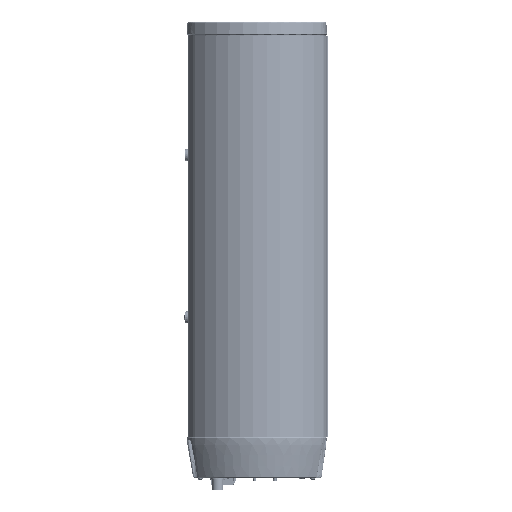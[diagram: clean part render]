
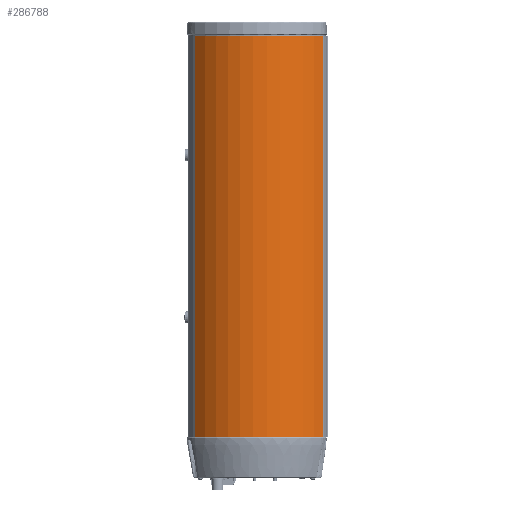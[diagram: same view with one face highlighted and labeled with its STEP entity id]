
A CAD part, left-side view. The second image highlights one B-rep face of the part: STEP entity #286788.
In plain terms, the highlighted cylindrical face has radius 81.17 mm (diameter 162.34 mm), a partial arc.
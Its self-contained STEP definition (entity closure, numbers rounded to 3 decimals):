
#10201 = LINE ( 'NONE', #115670, #306040 ) ;
#15075 = EDGE_CURVE ( 'NONE', #41800, #265298, #184176, .T. ) ;
#17237 = DIRECTION ( 'NONE',  ( 1., 0., 0. ) ) ;
#29823 = EDGE_CURVE ( 'NONE', #31084, #329132, #94656, .T. ) ;
#31084 = VERTEX_POINT ( 'NONE', #183118 ) ;
#41800 = VERTEX_POINT ( 'NONE', #201636 ) ;
#46017 = AXIS2_PLACEMENT_3D ( 'NONE', #252101, #69172, #17237 ) ;
#49468 = EDGE_LOOP ( 'NONE', ( #106498, #269559, #341250, #106280 ) ) ;
#67296 = DIRECTION ( 'NONE',  ( 0., 0., 1. ) ) ;
#69172 = DIRECTION ( 'NONE',  ( 0., 0., 1. ) ) ;
#75353 = LINE ( 'NONE', #317060, #325754 ) ;
#94656 = CIRCLE ( 'NONE', #260007, 81.17 ) ;
#106280 = ORIENTED_EDGE ( 'NONE', *, *, #15075, .T. ) ;
#106498 = ORIENTED_EDGE ( 'NONE', *, *, #127528, .T. ) ;
#112095 = CARTESIAN_POINT ( 'NONE',  ( 4.17, 2., -40. ) ) ;
#113781 = DIRECTION ( 'NONE',  ( 1., 0., 0. ) ) ;
#114180 = CARTESIAN_POINT ( 'NONE',  ( 4.17, 2., 356.6 ) ) ;
#115670 = CARTESIAN_POINT ( 'NONE',  ( -49.298, 63.072, 904.476 ) ) ;
#115880 = DIRECTION ( 'NONE',  ( 0., 0., -1. ) ) ;
#127528 = EDGE_CURVE ( 'NONE', #265298, #31084, #75353, .T. ) ;
#166600 = CARTESIAN_POINT ( 'NONE',  ( -45.294, -62.357, -38.4 ) ) ;
#179001 = DIRECTION ( 'NONE',  ( 0., 0., 1. ) ) ;
#183118 = CARTESIAN_POINT ( 'NONE',  ( -45.294, -62.357, 356.6 ) ) ;
#184176 = CIRCLE ( 'NONE', #46017, 81.17 ) ;
#201636 = CARTESIAN_POINT ( 'NONE',  ( -49.298, 63.072, -38.4 ) ) ;
#232853 = EDGE_CURVE ( 'NONE', #41800, #329132, #10201, .T. ) ;
#252101 = CARTESIAN_POINT ( 'NONE',  ( 4.17, 2., -38.4 ) ) ;
#259826 = CARTESIAN_POINT ( 'NONE',  ( -49.298, 63.072, 356.6 ) ) ;
#260007 = AXIS2_PLACEMENT_3D ( 'NONE', #114180, #115880, #326591 ) ;
#265298 = VERTEX_POINT ( 'NONE', #166600 ) ;
#269559 = ORIENTED_EDGE ( 'NONE', *, *, #29823, .T. ) ;
#274365 = FACE_OUTER_BOUND ( 'NONE', #49468, .T. ) ;
#276076 = CYLINDRICAL_SURFACE ( 'NONE', #296101, 81.17 ) ;
#286788 = ADVANCED_FACE ( 'NONE', ( #274365 ), #276076, .T. ) ;
#296101 = AXIS2_PLACEMENT_3D ( 'NONE', #112095, #302083, #113781 ) ;
#302083 = DIRECTION ( 'NONE',  ( 0., 0., 1. ) ) ;
#306040 = VECTOR ( 'NONE', #67296, 1000. ) ;
#317060 = CARTESIAN_POINT ( 'NONE',  ( -45.294, -62.357, -40. ) ) ;
#325754 = VECTOR ( 'NONE', #179001, 1000. ) ;
#326591 = DIRECTION ( 'NONE',  ( 1., 0., 0. ) ) ;
#329132 = VERTEX_POINT ( 'NONE', #259826 ) ;
#341250 = ORIENTED_EDGE ( 'NONE', *, *, #232853, .F. ) ;
